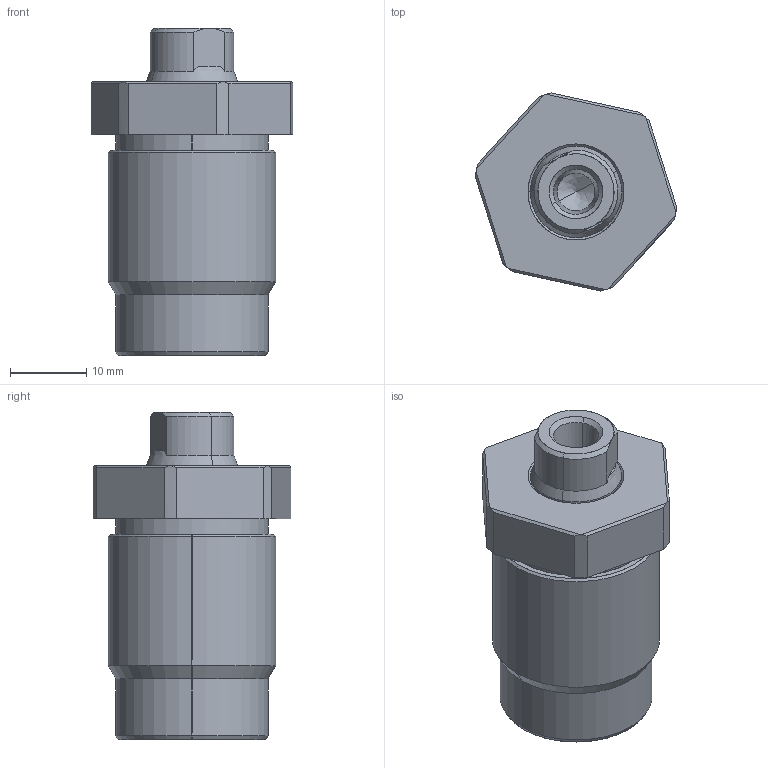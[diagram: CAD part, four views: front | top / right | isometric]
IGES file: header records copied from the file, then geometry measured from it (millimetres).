
Start section: SolidWorks IGES file using analytic representation for surfaces
Global section: file name: E:\ALL SSVT IGS MODEL\ALL THREADED BODY CYLINDER-S-M-L-IGS MODEL\TC06-M221-S-M-L-IGS-AND STEPP FILE\TC06-M22X1.5-M.IGS; native system: SolidWorks 2019; preprocessor: SolidWorks 2019; author: SSVT; date: 210827.111951; units: millimetre
Bounding box: 26.49 x 25.99 x 43 mm (x, y, z)
Surface area: 6289.3 mm2 (no closed solid volume)
Topology: 0 solids, 0 shells, 67 faces, 657 edges, 655 vertices
Faces by surface type: revolution 44, bspline 23
